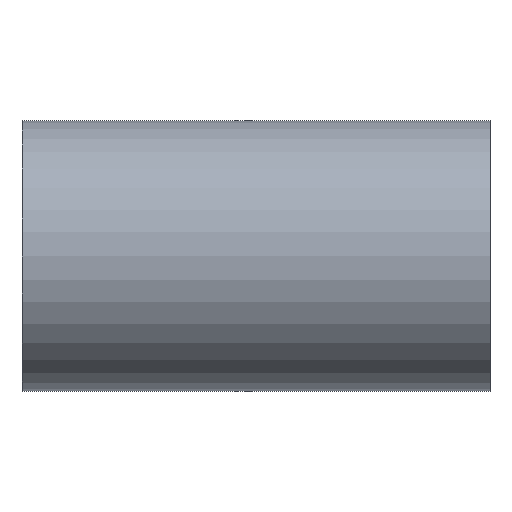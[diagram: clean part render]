
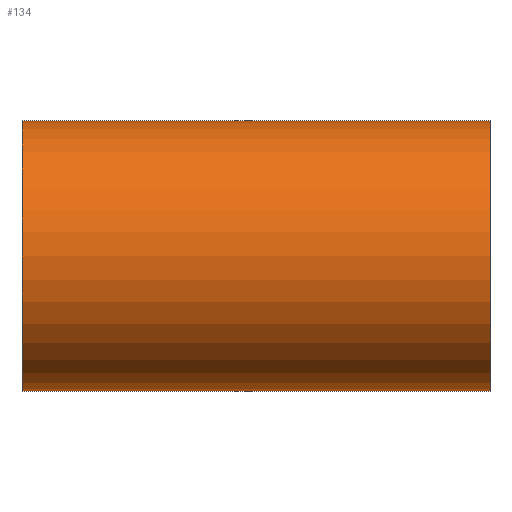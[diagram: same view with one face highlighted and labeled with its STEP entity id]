
A CAD part, front view. The second image highlights one B-rep face of the part: STEP entity #134.
In plain terms, the highlighted cylindrical face has radius 38.1 mm (diameter 76.2 mm), a partial arc.
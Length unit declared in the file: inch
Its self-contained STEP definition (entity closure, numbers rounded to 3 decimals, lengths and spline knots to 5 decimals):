
#38 = CARTESIAN_POINT ( 'NONE',  ( 2.5935, 0., -1.5 ) ) ;
#46 = DIRECTION ( 'NONE',  ( 0., 0., -1. ) ) ;
#51 = CARTESIAN_POINT ( 'NONE',  ( 2.5935, 0., 1.5 ) ) ;
#104 = VERTEX_POINT ( 'NONE', #573 ) ;
#107 = CIRCLE ( 'NONE', #249, 1.5 ) ;
#134 = ADVANCED_FACE ( 'NONE', ( #536 ), #210, .T. ) ;
#138 = LINE ( 'NONE', #38, #371 ) ;
#154 = CARTESIAN_POINT ( 'NONE',  ( 2.5935, 0., 0. ) ) ;
#190 = DIRECTION ( 'NONE',  ( 0., 0., -1. ) ) ;
#197 = ORIENTED_EDGE ( 'NONE', *, *, #545, .F. ) ;
#198 = VERTEX_POINT ( 'NONE', #414 ) ;
#200 = CARTESIAN_POINT ( 'NONE',  ( 2.5935, 0., 0. ) ) ;
#210 = CYLINDRICAL_SURFACE ( 'NONE', #445, 1.5 ) ;
#212 = ORIENTED_EDGE ( 'NONE', *, *, #584, .F. ) ;
#221 = ORIENTED_EDGE ( 'NONE', *, *, #554, .T. ) ;
#225 = CARTESIAN_POINT ( 'NONE',  ( -2.5935, 0., 1.5 ) ) ;
#228 = CARTESIAN_POINT ( 'NONE',  ( 2.5935, 0., -1.5 ) ) ;
#249 = AXIS2_PLACEMENT_3D ( 'NONE', #154, #456, #190 ) ;
#250 = LINE ( 'NONE', #51, #360 ) ;
#288 = CIRCLE ( 'NONE', #398, 1.5 ) ;
#302 = DIRECTION ( 'NONE',  ( 1., 0., 0. ) ) ;
#318 = EDGE_LOOP ( 'NONE', ( #197, #212, #221, #558 ) ) ;
#337 = VERTEX_POINT ( 'NONE', #228 ) ;
#360 = VECTOR ( 'NONE', #527, 39.37008 ) ;
#371 = VECTOR ( 'NONE', #559, 39.37008 ) ;
#398 = AXIS2_PLACEMENT_3D ( 'NONE', #583, #302, #46 ) ;
#411 = VERTEX_POINT ( 'NONE', #225 ) ;
#414 = CARTESIAN_POINT ( 'NONE',  ( -2.5935, 0., -1.5 ) ) ;
#445 = AXIS2_PLACEMENT_3D ( 'NONE', #200, #569, #509 ) ;
#456 = DIRECTION ( 'NONE',  ( 1., 0., 0. ) ) ;
#506 = EDGE_CURVE ( 'NONE', #411, #198, #288, .T. ) ;
#509 = DIRECTION ( 'NONE',  ( 0., 0., 1. ) ) ;
#527 = DIRECTION ( 'NONE',  ( -1., 0., 0. ) ) ;
#536 = FACE_OUTER_BOUND ( 'NONE', #318, .T. ) ;
#545 = EDGE_CURVE ( 'NONE', #337, #198, #138, .T. ) ;
#554 = EDGE_CURVE ( 'NONE', #104, #411, #250, .T. ) ;
#558 = ORIENTED_EDGE ( 'NONE', *, *, #506, .T. ) ;
#559 = DIRECTION ( 'NONE',  ( -1., 0., 0. ) ) ;
#569 = DIRECTION ( 'NONE',  ( -1., 0., 0. ) ) ;
#573 = CARTESIAN_POINT ( 'NONE',  ( 2.5935, 0., 1.5 ) ) ;
#583 = CARTESIAN_POINT ( 'NONE',  ( -2.5935, 0., 0. ) ) ;
#584 = EDGE_CURVE ( 'NONE', #104, #337, #107, .T. ) ;
